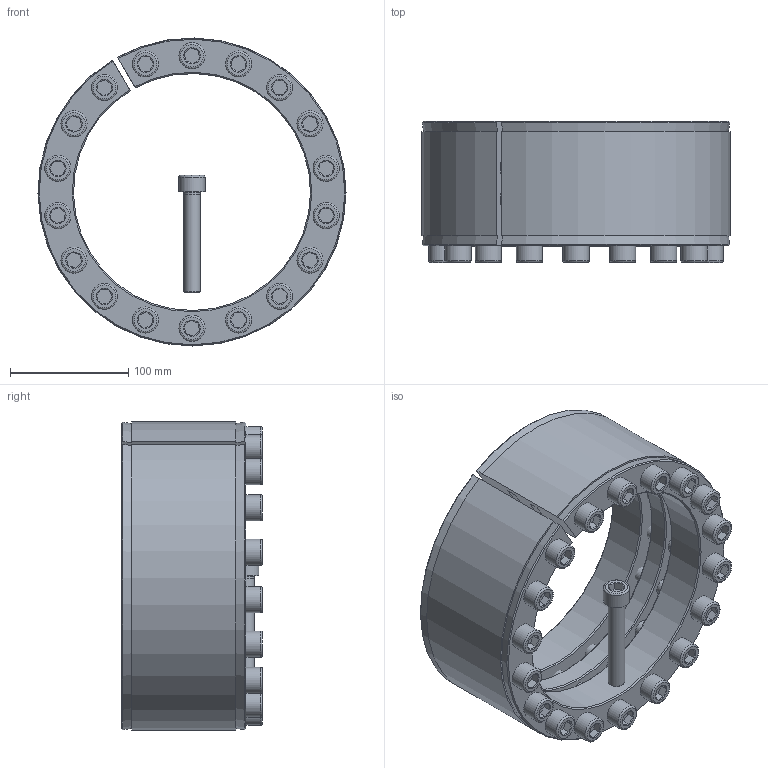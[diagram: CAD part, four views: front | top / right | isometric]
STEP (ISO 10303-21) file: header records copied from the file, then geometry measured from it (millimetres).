
FILE_DESCRIPTION( ( 'Unknown' ), '1' );
FILE_NAME( 'C:/Users/Frank/Eigene Daten/CAD/Solid Edge/KBK Karpstein/KBS Layout Baureihen/KBS 18/KBS - 200 x 260.stp', 'Unknown', ( 'Unknown' ), ( 'Unknown' ), 'XStep 1.0', 'Unknown', ' ' );
FILE_SCHEMA( ( 'automotive_design' ) );
Length unit declared in the file: millimetre
Products named in the file (3): Assem1; ISO EN DIN 4762 M14x85; KBS 18 - 200 x 260
Bounding box: 259.99 x 119 x 259.98 mm (x, y, z)
Volume: 3708480.3 mm3; surface area: 737390 mm2
Topology: 21 solids, 21 shells, 671 faces, 1505 edges, 880 vertices
Faces by surface type: plane 284, cylinder 192, cone 157, torus 38
Full cylindrical faces by diameter (mm): 11.835 x36, 12 x19, 14 x38, 15.5 x72, 22 x19
Entity records: 4894 total; most frequent: CARTESIAN_POINT 1243, DIRECTION 764, ORIENTED_EDGE 610, AXIS2_PLACEMENT_3D 364, EDGE_CURVE 305, EDGE_LOOP 260, CIRCLE 221, VERTEX_POINT 215
